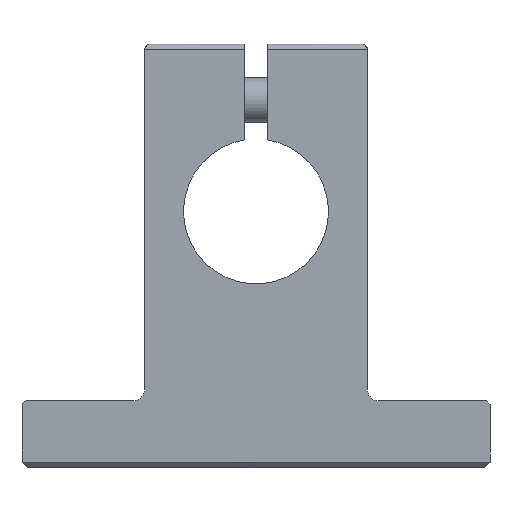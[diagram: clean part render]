
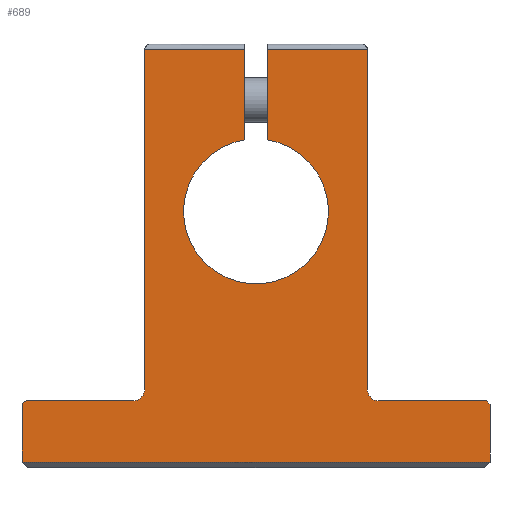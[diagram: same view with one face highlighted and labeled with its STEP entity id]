
A CAD part, left-side view. The second image highlights one B-rep face of the part: STEP entity #689.
In plain terms, the highlighted planar face has unit normal (-1, 0, 0).
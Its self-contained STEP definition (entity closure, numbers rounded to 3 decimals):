
#441=CARTESIAN_POINT('',(0.0,1.,14.5));
#442=VERTEX_POINT('',#441);
#460=CARTESIAN_POINT('',(0.0,10.0,14.5));
#461=VERTEX_POINT('',#460);
#469=CARTESIAN_POINT('',(0.0,10.0,14.5));
#470=DIRECTION('',(0.0,-1.0,0.0));
#471=VECTOR('',#470,9.);
#472=LINE('',#469,#471);
#473=EDGE_CURVE('',#461,#442,#472,.T.);
#559=CARTESIAN_POINT('',(0.0,0.,-5.51));
#560=DIRECTION('',(1.0,0.0,0.0));
#561=DIRECTION('',(0.0,0.0,-1.0));
#562=AXIS2_PLACEMENT_3D('',#559,#560,#561);
#563=PLANE('',#562);
#564=ORIENTED_EDGE('',*,*,#473,.F.);
#565=CARTESIAN_POINT('',(0.0,10.0,-16.));
#566=VERTEX_POINT('',#565);
#567=CARTESIAN_POINT('',(0.0,10.0,-16.));
#568=DIRECTION('',(0.0,0.0,1.0));
#569=VECTOR('',#568,30.5);
#570=LINE('',#567,#569);
#571=EDGE_CURVE('',#566,#461,#570,.T.);
#572=ORIENTED_EDGE('',*,*,#571,.F.);
#573=CARTESIAN_POINT('',(0.0,11.0,-17.));
#574=VERTEX_POINT('',#573);
#575=CARTESIAN_POINT('',(0.0,11.0,-16.));
#576=DIRECTION('',(-1.,0.0,0.0));
#577=DIRECTION('',(0.0,-0.707,-0.707));
#578=AXIS2_PLACEMENT_3D('',#575,#576,#577);
#579=CIRCLE('',#578,1.);
#580=EDGE_CURVE('',#574,#566,#579,.T.);
#581=ORIENTED_EDGE('',*,*,#580,.F.);
#582=CARTESIAN_POINT('',(0.0,20.5,-17.));
#583=VERTEX_POINT('',#582);
#584=CARTESIAN_POINT('',(0.0,20.5,-17.));
#585=DIRECTION('',(0.0,-1.0,0.0));
#586=VECTOR('',#585,9.5);
#587=LINE('',#584,#586);
#588=EDGE_CURVE('',#583,#574,#587,.T.);
#589=ORIENTED_EDGE('',*,*,#588,.F.);
#590=CARTESIAN_POINT('',(0.0,21.,-17.5));
#591=VERTEX_POINT('',#590);
#592=CARTESIAN_POINT('',(0.0,20.5,-17.5));
#593=DIRECTION('',(1.0,0.0,0.0));
#594=DIRECTION('',(0.0,0.707,0.707));
#595=AXIS2_PLACEMENT_3D('',#592,#593,#594);
#596=CIRCLE('',#595,0.5);
#597=EDGE_CURVE('',#591,#583,#596,.T.);
#598=ORIENTED_EDGE('',*,*,#597,.F.);
#599=CARTESIAN_POINT('',(0.0,21.,-22.5));
#600=VERTEX_POINT('',#599);
#601=CARTESIAN_POINT('',(0.0,21.,-22.5));
#602=DIRECTION('',(0.0,0.0,1.0));
#603=VECTOR('',#602,5.0);
#604=LINE('',#601,#603);
#605=EDGE_CURVE('',#600,#591,#604,.T.);
#606=ORIENTED_EDGE('',*,*,#605,.F.);
#607=CARTESIAN_POINT('',(0.0,-21.,-22.5));
#608=VERTEX_POINT('',#607);
#609=CARTESIAN_POINT('',(0.0,-21.,-22.5));
#610=DIRECTION('',(0.0,1.0,0.0));
#611=VECTOR('',#610,42.);
#612=LINE('',#609,#611);
#613=EDGE_CURVE('',#608,#600,#612,.T.);
#614=ORIENTED_EDGE('',*,*,#613,.F.);
#615=CARTESIAN_POINT('',(0.0,-21.,-17.3));
#616=VERTEX_POINT('',#615);
#617=CARTESIAN_POINT('',(0.0,-21.,-17.3));
#618=DIRECTION('',(0.0,0.0,-1.0));
#619=VECTOR('',#618,5.2);
#620=LINE('',#617,#619);
#621=EDGE_CURVE('',#616,#608,#620,.T.);
#622=ORIENTED_EDGE('',*,*,#621,.F.);
#623=CARTESIAN_POINT('',(0.0,-20.7,-17.));
#624=VERTEX_POINT('',#623);
#625=CARTESIAN_POINT('',(0.0,-20.7,-17.));
#626=DIRECTION('',(0.0,-0.707,-0.707));
#627=VECTOR('',#626,0.424);
#628=LINE('',#625,#627);
#629=EDGE_CURVE('',#624,#616,#628,.T.);
#630=ORIENTED_EDGE('',*,*,#629,.F.);
#631=CARTESIAN_POINT('',(0.0,-11.0,-17.));
#632=VERTEX_POINT('',#631);
#633=CARTESIAN_POINT('',(0.0,-11.0,-17.));
#634=DIRECTION('',(0.0,-1.0,0.0));
#635=VECTOR('',#634,9.7);
#636=LINE('',#633,#635);
#637=EDGE_CURVE('',#632,#624,#636,.T.);
#638=ORIENTED_EDGE('',*,*,#637,.F.);
#639=CARTESIAN_POINT('',(0.0,-10.0,-16.));
#640=VERTEX_POINT('',#639);
#641=CARTESIAN_POINT('',(0.0,-11.0,-16.));
#642=DIRECTION('',(-1.,0.0,0.0));
#643=DIRECTION('',(0.0,0.707,-0.707));
#644=AXIS2_PLACEMENT_3D('',#641,#642,#643);
#645=CIRCLE('',#644,1.);
#646=EDGE_CURVE('',#640,#632,#645,.T.);
#647=ORIENTED_EDGE('',*,*,#646,.F.);
#648=CARTESIAN_POINT('',(0.0,-10.0,14.5));
#649=VERTEX_POINT('',#648);
#650=CARTESIAN_POINT('',(0.0,-10.0,14.5));
#651=DIRECTION('',(0.0,0.0,-1.0));
#652=VECTOR('',#651,30.5);
#653=LINE('',#650,#652);
#654=EDGE_CURVE('',#649,#640,#653,.T.);
#655=ORIENTED_EDGE('',*,*,#654,.F.);
#656=CARTESIAN_POINT('',(0.0,-1.,14.5));
#657=VERTEX_POINT('',#656);
#658=CARTESIAN_POINT('',(0.0,-1.,14.5));
#659=DIRECTION('',(0.0,-1.0,0.0));
#660=VECTOR('',#659,9.);
#661=LINE('',#658,#660);
#662=EDGE_CURVE('',#657,#649,#661,.T.);
#663=ORIENTED_EDGE('',*,*,#662,.F.);
#664=CARTESIAN_POINT('',(0.0,-1.,6.423));
#665=VERTEX_POINT('',#664);
#666=CARTESIAN_POINT('',(0.0,-1.,6.423));
#667=DIRECTION('',(0.0,0.0,1.0));
#668=VECTOR('',#667,8.077);
#669=LINE('',#666,#668);
#670=EDGE_CURVE('',#665,#657,#669,.T.);
#671=ORIENTED_EDGE('',*,*,#670,.F.);
#672=CARTESIAN_POINT('',(0.0,1.,6.423));
#673=VERTEX_POINT('',#672);
#674=CARTESIAN_POINT('',(0.0,0.0,0.0));
#675=DIRECTION('',(-1.0,0.0,0.0));
#676=DIRECTION('',(0.0,-1.0,0.0));
#677=AXIS2_PLACEMENT_3D('',#674,#675,#676);
#678=CIRCLE('',#677,6.5);
#679=EDGE_CURVE('',#673,#665,#678,.T.);
#680=ORIENTED_EDGE('',*,*,#679,.F.);
#681=CARTESIAN_POINT('',(0.0,1.,14.5));
#682=DIRECTION('',(0.0,0.0,-1.0));
#683=VECTOR('',#682,8.077);
#684=LINE('',#681,#683);
#685=EDGE_CURVE('',#442,#673,#684,.T.);
#686=ORIENTED_EDGE('',*,*,#685,.F.);
#687=EDGE_LOOP('',(#564,#572,#581,#589,#598,#606,#614,#622,#630,#638,#647,#655,#663,#671,#680,#686));
#688=FACE_OUTER_BOUND('',#687,.T.);
#689=ADVANCED_FACE('',(#688),#563,.F.);
